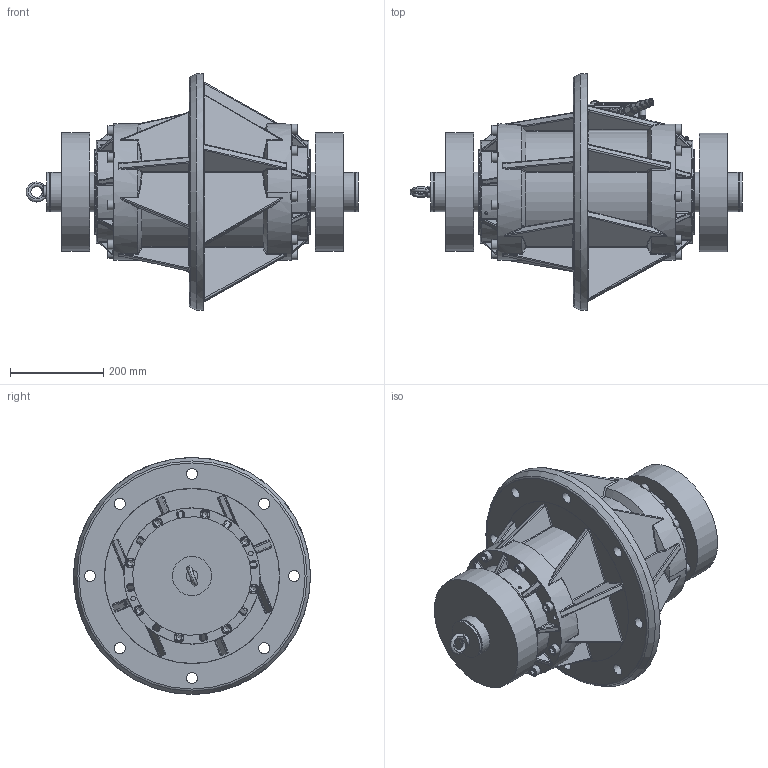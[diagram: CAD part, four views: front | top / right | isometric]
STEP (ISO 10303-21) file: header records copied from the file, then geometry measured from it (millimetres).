
FILE_DESCRIPTION(/* description */ (''),/* implementation_level */ '2;1');
FILE_NAME(/* name */ 'FVM 9000x3-BS.stp',/* time_stamp */ '2026-09-09T15:54:56+03:00',/* author */ ('PC'),/* organization */ (''),/* preprocessor_version */ 'ST-DEVELOPER v20.1',/* originating_system */ 'Autodesk Inventor 2026',/* authorisation */ '');
FILE_SCHEMA (('AUTOMOTIVE_DESIGN { 1 0 10303 214 3 1 1 }'));
Products named in the file (1): FVM 9000x3-BS
Bounding box: 711.9 x 508 x 508 mm (x, y, z)
Volume: 37986678.1 mm3; surface area: 1631289.3 mm2
Topology: 3 solids, 50 shells, 2080 faces, 5165 edges, 3212 vertices
Faces by surface type: plane 831, cylinder 588, bspline 311, cone 211, torus 114, sphere 25
Full cylindrical faces by diameter (mm): 4 x2, 4.917 x9, 6 x1, 6.647 x15, 8 x3, 8.376 x1, 10 x4, 10.106 x4, 10.5 x4, 11.835 x16, 14 x16, 14.5 x16, 15 x16, 17.294 x1, 20 x2, 21 x32, 24 x8, 50 x8, 81.5 x2, 84 x4, 84.9 x2, 85 x8, 89 x6, 182 x2, 220 x2, 247.6 x4, 254 x5, 255.102 x1, 292 x1, 375 x1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
Entity records: 75521 total; most frequent: CARTESIAN_POINT 26560, ORIENTED_EDGE 10186, DIRECTION 9250, EDGE_CURVE 5093, AXIS2_PLACEMENT_3D 3647, VERTEX_POINT 3212, EDGE_LOOP 2296, FACE_OUTER_BOUND 2080
